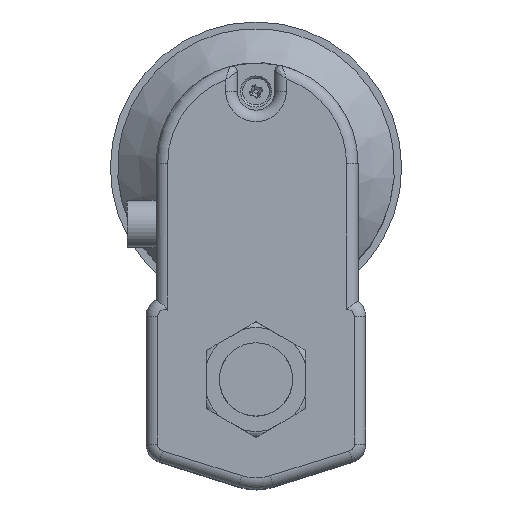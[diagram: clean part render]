
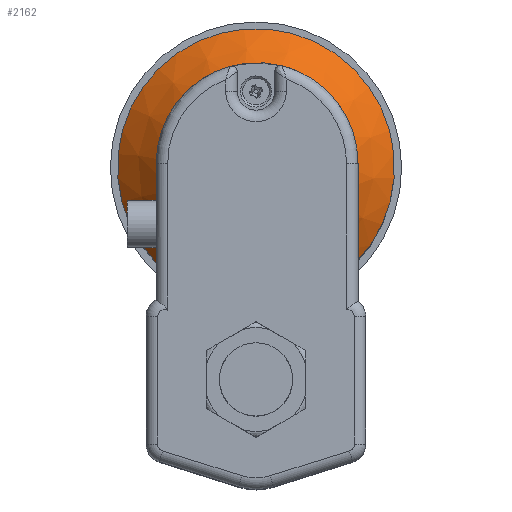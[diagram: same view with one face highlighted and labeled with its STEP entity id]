
A CAD part, top view. The second image highlights one B-rep face of the part: STEP entity #2162.
In plain terms, the highlighted conical face has half-angle 45 degrees and reference radius 48 mm.
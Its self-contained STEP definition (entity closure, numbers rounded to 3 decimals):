
#484 = ORIENTED_EDGE ( 'NONE', *, *, #3127, .F. ) ;
#485 = ORIENTED_EDGE ( 'NONE', *, *, #3124, .T. ) ;
#486 = ORIENTED_EDGE ( 'NONE', *, *, #3125, .T. ) ;
#931 = CIRCLE ( 'NONE', #1653, 48. ) ;
#934 = CIRCLE ( 'NONE', #1643, 34. ) ;
#1444 = AXIS2_PLACEMENT_3D ( 'NONE', #3677, #3678, #3659 ) ;
#1643 = AXIS2_PLACEMENT_3D ( 'NONE', #5060, #5064, #5065 ) ;
#1653 = AXIS2_PLACEMENT_3D ( 'NONE', #5022, #5033, #5034 ) ;
#1931 = EDGE_LOOP ( 'NONE', ( #485, #486 ) ) ;
#2006 = EDGE_LOOP ( 'NONE', ( #484 ) ) ;
#2162 = ADVANCED_FACE ( 'NONE', ( #2903, #2900 ), #2906, .T. ) ;
#2298 = B_SPLINE_CURVE_WITH_KNOTS ( 'NONE', 3,
 ( #5032, #5035, #5036, #5037, #5038, #5039, #5040, #5041, #5042, #5043, #5044, #5045, #5046, #5047, #5048, #5049, #5050, #5051, #5052, #5053, #5054, #5055, #5056, #5057, #5058, #5059 ),
 .UNSPECIFIED., .F., .F.,
 ( 4, 2, 2, 2, 2, 2, 2, 2, 2, 2, 2, 2, 4 ),
 ( 0., 0.004, 0.007, 0.015, 0.018, 0.022, 0.026, 0.029, 0.037, 0.04, 0.044, 0.051, 0.059 ),
 .UNSPECIFIED. ) ;
#2408 = VERTEX_POINT ( 'NONE', #4314 ) ;
#2416 = VERTEX_POINT ( 'NONE', #4322 ) ;
#2900 = FACE_OUTER_BOUND ( 'NONE', #1931, .T. ) ;
#2903 = FACE_BOUND ( 'NONE', #2006, .T. ) ;
#2906 = CONICAL_SURFACE ( 'NONE', #1444, 48., 0.785 ) ;
#3124 = EDGE_CURVE ( 'NONE', #2408, #2416, #931, .T. ) ;
#3125 = EDGE_CURVE ( 'NONE', #2416, #2408, #2298, .T. ) ;
#3127 = EDGE_CURVE ( 'NONE', #5760, #5760, #934, .T. ) ;
#3659 = DIRECTION ( 'NONE',  ( 0., 1., 0. ) ) ;
#3677 = CARTESIAN_POINT ( 'NONE',  ( 0., 73.9, 53.5 ) ) ;
#3678 = DIRECTION ( 'NONE',  ( 0., 0., -1. ) ) ;
#4314 = CARTESIAN_POINT ( 'NONE',  ( 27.908, 34.847, 53.5 ) ) ;
#4322 = CARTESIAN_POINT ( 'NONE',  ( -27.908, 34.847, 53.5 ) ) ;
#5022 = CARTESIAN_POINT ( 'NONE',  ( 0., 73.9, 53.5 ) ) ;
#5032 = CARTESIAN_POINT ( 'NONE',  ( -27.908, 34.847, 53.5 ) ) ;
#5033 = DIRECTION ( 'NONE',  ( 0., 0., 1. ) ) ;
#5034 = DIRECTION ( 'NONE',  ( 0., -1., 0. ) ) ;
#5035 = CARTESIAN_POINT ( 'NONE',  ( -26.826, 34.768, 54.065 ) ) ;
#5036 = CARTESIAN_POINT ( 'NONE',  ( -25.733, 34.688, 54.609 ) ) ;
#5037 = CARTESIAN_POINT ( 'NONE',  ( -23.531, 34.53, 55.644 ) ) ;
#5038 = CARTESIAN_POINT ( 'NONE',  ( -22.421, 34.452, 56.137 ) ) ;
#5039 = CARTESIAN_POINT ( 'NONE',  ( -19.06, 34.223, 57.53 ) ) ;
#5040 = CARTESIAN_POINT ( 'NONE',  ( -16.779, 34.077, 58.344 ) ) ;
#5041 = CARTESIAN_POINT ( 'NONE',  ( -13.28, 33.887, 59.356 ) ) ;
#5042 = CARTESIAN_POINT ( 'NONE',  ( -12.101, 33.829, 59.657 ) ) ;
#5043 = CARTESIAN_POINT ( 'NONE',  ( -9.715, 33.725, 60.183 ) ) ;
#5044 = CARTESIAN_POINT ( 'NONE',  ( -8.505, 33.679, 60.407 ) ) ;
#5045 = CARTESIAN_POINT ( 'NONE',  ( -6.081, 33.605, 60.767 ) ) ;
#5046 = CARTESIAN_POINT ( 'NONE',  ( -4.863, 33.577, 60.903 ) ) ;
#5047 = CARTESIAN_POINT ( 'NONE',  ( -2.415, 33.538, 61.085 ) ) ;
#5048 = CARTESIAN_POINT ( 'NONE',  ( -1.188, 33.529, 61.13 ) ) ;
#5049 = CARTESIAN_POINT ( 'NONE',  ( 2.477, 33.529, 61.127 ) ) ;
#5050 = CARTESIAN_POINT ( 'NONE',  ( 4.908, 33.569, 60.942 ) ) ;
#5051 = CARTESIAN_POINT ( 'NONE',  ( 8.537, 33.68, 60.402 ) ) ;
#5052 = CARTESIAN_POINT ( 'NONE',  ( 9.746, 33.726, 60.177 ) ) ;
#5053 = CARTESIAN_POINT ( 'NONE',  ( 12.13, 33.83, 59.65 ) ) ;
#5054 = CARTESIAN_POINT ( 'NONE',  ( 13.307, 33.888, 59.348 ) ) ;
#5055 = CARTESIAN_POINT ( 'NONE',  ( 16.801, 34.078, 58.337 ) ) ;
#5056 = CARTESIAN_POINT ( 'NONE',  ( 19.078, 34.224, 57.523 ) ) ;
#5057 = CARTESIAN_POINT ( 'NONE',  ( 23.55, 34.529, 55.668 ) ) ;
#5058 = CARTESIAN_POINT ( 'NONE',  ( 25.745, 34.688, 54.629 ) ) ;
#5059 = CARTESIAN_POINT ( 'NONE',  ( 27.908, 34.847, 53.5 ) ) ;
#5060 = CARTESIAN_POINT ( 'NONE',  ( 0., 73.9, 67.5 ) ) ;
#5064 = DIRECTION ( 'NONE',  ( 0., 0., 1. ) ) ;
#5065 = DIRECTION ( 'NONE',  ( 0., -1., 0. ) ) ;
#5760 = VERTEX_POINT ( 'NONE', #5761 ) ;
#5761 = CARTESIAN_POINT ( 'NONE',  ( 0., 39.9, 67.5 ) ) ;
